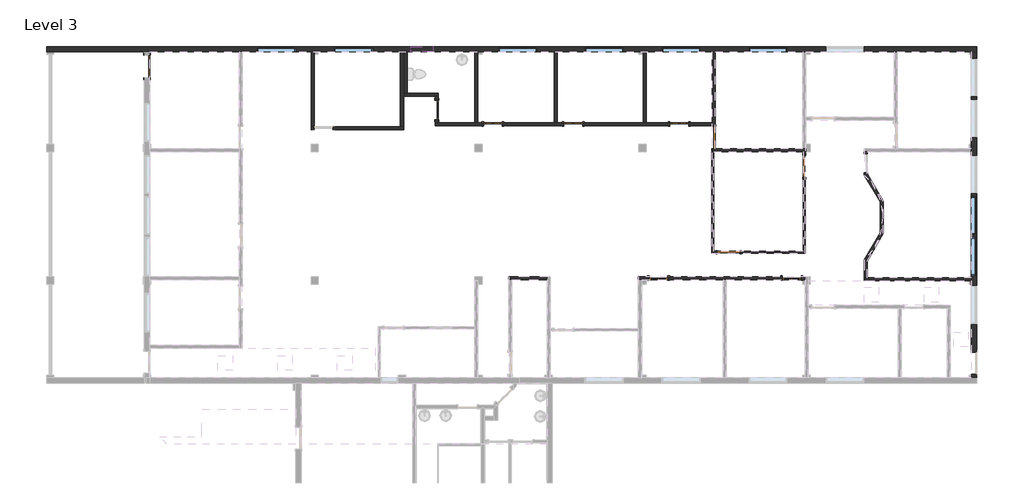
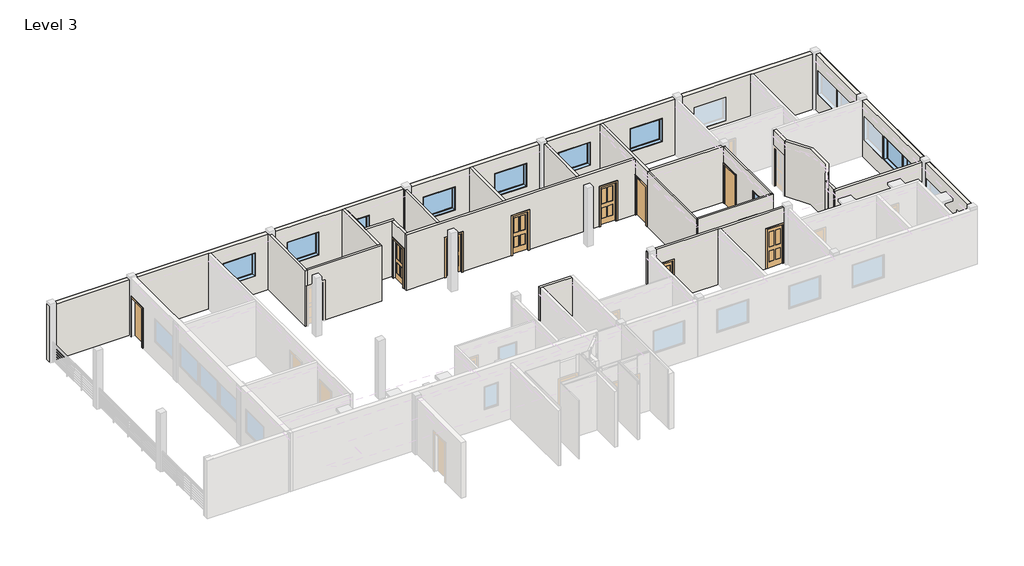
# One storey, part 3 of 4: 23 walls, 11 windows, 10 doors.
"""IFC4 building model written with IfcOpenShell, lengths in millimetres."""

from ifc_helpers import new_model, si_unit, point, frame, frame_2d, origin, origin_with_axes, place, context, project, spatial, polyline, circle_curve, trimmed, segment, composite_curve, outline, extrude, faceted_brep, transform, mapped, element, save
from components import door_43f271b1, door_c0366a91, door_e28fd1ca, door_55521cee, door_bfc1a142, door_dc1c1a0d, door_238e255b, fixed_3_x_3_w3_42a4cb5f, window_74e4fc61, window_a0bf6c86

model = new_model("IFC4")

# Units and contexts
model_context = context("Model", 3, world=origin())
ifc_project = project(units=[si_unit("LENGTHUNIT", "METRE", prefix="MILLI")], contexts=[model_context])

# Site, building, storey
site = spatial("IfcSite", under=ifc_project)
building = spatial("IfcBuilding", under=site)
storey = spatial("IfcBuildingStorey", under=building, Name="Level 3", Elevation=0.0)

# Doors
placement = place(None, origin())
door_shape = door_43f271b1(model_context)
element("IfcDoor", 1, ObjectType="Single-Flush : 36\" x 80\" - D1", at=placement, inside=storey, context=model_context, shape_type="MappedRepresentation", body=[
    mapped(door_shape, transform((-3475.6437367, 6350.3566387, 0.0), x_axis=(0.0, -0.9999999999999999, 0.0), y_axis=(0.9999999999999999, 0.0, 0.0), z_axis=(0.0, 0.0, 1.0))),
])
door_2_shape = door_c0366a91(model_context)
element("IfcDoor", 2, ObjectType="Single-Flush : 36\" x 80\" - D1", at=placement, inside=storey, context=model_context, shape_type="MappedRepresentation", body=[
    mapped(door_2_shape, transform((231.1687633, 5177.1941387, 0.0), x_axis=(0.0, 1.0, 0.0), y_axis=(-1.0, 0.0, 0.0), z_axis=(0.0, 0.0, 1.0))),
])
door_3_shape = door_e28fd1ca(model_context)
element("IfcDoor", 3, ObjectType="Single-Flush : 36\" x 80\" - D1", at=placement, inside=storey, context=model_context, shape_type="MappedRepresentation", body=[
    mapped(door_3_shape, transform((-2866.0437367, 1660.8816387, 0.0), x_axis=(-0.9999999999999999, 0.0, 0.0), y_axis=(0.0, -0.9999999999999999, 0.0), z_axis=(0.0, 0.0, 1.0))),
])
door_4_shape = door_55521cee(model_context)
element("IfcDoor", 4, ObjectType="Single-Flush : 36\" x 80\" - D1", at=placement, inside=storey, context=model_context, shape_type="MappedRepresentation", body=[
    mapped(door_4_shape, transform((-26653.1437367, 9260.2441387, 0.0), x_axis=(0.0, 1.0, 0.0), y_axis=(-1.0, 0.0, 0.0), z_axis=(0.0, 0.0, 1.0))),
])
door_5_shape = door_bfc1a142(model_context)
element("IfcDoor", 5, ObjectType="Single-Glass 3 : 30\" x 80\" - D3", at=placement, inside=storey, context=model_context, shape_type="MappedRepresentation", body=[
    mapped(door_5_shape, transform((-12511.6937367, 6904.3941387, 0.0), x_axis=(-1.0, 0.0, 0.0), y_axis=(0.0, -1.0, 0.0), z_axis=(0.0, 0.0, 1.0))),
])
element("IfcDoor", 6, ObjectType="Single-Glass 3 : 30\" x 80\" - D3", at=placement, inside=storey, context=model_context, shape_type="MappedRepresentation", body=[
    mapped(door_5_shape, transform((-281.5937367, 605.1941387, 0.0), x_axis=(1.0, 0.0, 0.0), y_axis=(0.0, 1.0, 0.0), z_axis=(0.0, 0.0, 1.0))),
])
element("IfcDoor", 7, ObjectType="Single-Glass 3 : 30\" x 80\" - D3", at=placement, inside=storey, context=model_context, shape_type="MappedRepresentation", body=[
    mapped(door_5_shape, transform((-9222.3937367, 6904.3941387, 0.0), x_axis=(-1.0, 0.0, 0.0), y_axis=(0.0, -1.0, 0.0), z_axis=(0.0, 0.0, 1.0))),
])
door_6_shape = door_dc1c1a0d(model_context)
element("IfcDoor", 8, ObjectType="Single-Glass 3 : 30\" x 80\" - D3", at=placement, inside=storey, context=model_context, shape_type="MappedRepresentation", body=[
    mapped(door_6_shape, transform((-5729.8937367, 605.1941387, 0.0), x_axis=(-1.0, 0.0, 0.0), y_axis=(0.0, -1.0, 0.0), z_axis=(0.0, 0.0, 1.0))),
])
element("IfcDoor", 9, ObjectType="Single-Glass 3 : 30\" x 80\" - D3", at=placement, inside=storey, context=model_context, shape_type="MappedRepresentation", body=[
    mapped(door_6_shape, transform((-4884.5499867, 6904.3941387, 0.0), x_axis=(1.0, 0.0, 0.0), y_axis=(0.0, 1.0, 0.0), z_axis=(0.0, 0.0, 1.0))),
])
door_7_shape = door_238e255b(model_context)
element("IfcDoor", 10, ObjectType="Single-Glass 3 : 32\" x 80\" - D2", at=placement, inside=storey, context=model_context, shape_type="MappedRepresentation", body=[
    mapped(door_7_shape, transform((-14804.0437367, 7482.2441387, 0.0), x_axis=(0.0, -1.0, 0.0), y_axis=(1.0, 0.0, 0.0), z_axis=(0.0, 0.0, 1.0))),
])

# Walls
element("IfcWall", 11, ObjectType="Generic - 6\"", at=placement, inside=storey, context=model_context, shape_type="SweptSolid", body=[
    extrude(outline(polyline([(-16164.5312367, 8172.8066387), (-16164.5312367, 9857.1441387), (-16012.1312367, 9857.1441387), (-16012.1312367, 8172.8066387), (-16164.5312367, 8172.8066387)])), origin_with_axes(), (0.0, 0.0, 1.0), 2743.2),
])
element("IfcWall", 12, ObjectType="Generic - 8\" Masonry existing", at=placement, inside=storey, context=model_context, shape_type="Brep", body=[
    faceted_brep([(-30767.9437367, 9857.1441387, 0.0), (-30767.9437367, 9857.1441387, 2895.6), (-30767.9437367, 10063.5191387, 2895.6), (-30767.9437367, 10076.2191387, 2895.6), (-30767.9437367, 10076.2191387, 0.0), (7289.1937633, 9857.1441387, 0.0), (7070.1187633, 9857.1441387, 0.0), (4026.8812633, 9857.1441387, 0.0), (3903.0562633, 9857.1441387, 0.0), (293.0812633, 9857.1441387, 0.0), (169.2562633, 9857.1441387, 0.0), (-3413.7312367, 9857.1441387, 0.0), (-3537.5562367, 9857.1441387, 0.0), (-6231.5437367, 9857.1441387, 0.0), (-6355.3687367, 9857.1441387, 0.0), (-9865.3312367, 9857.1441387, 0.0), (-9989.1562367, 9857.1441387, 0.0), (-13118.1187367, 9857.1441387, 0.0), (-13241.9437367, 9857.1441387, 0.0), (-16012.1312367, 9857.1441387, 0.0), (-16164.5312367, 9857.1441387, 0.0), (-16288.3562367, 9857.1441387, 0.0), (-19823.7187367, 9857.1441387, 0.0), (-19947.5437367, 9857.1441387, 0.0), (-22766.9437367, 9857.1441387, 0.0), (-22890.7687367, 9857.1441387, 0.0), (-26543.6062367, 9857.1441387, 0.0), (-26762.6812367, 9857.1441387, 0.0), (7289.1937633, 10076.2191387, 0.0), (7289.1937633, 9857.1441387, 2895.6), (7276.4937633, 9857.1441387, 2895.6), (7070.1187633, 9857.1441387, 2895.6), (4026.8812633, 9857.1441387, 2895.6), (3903.0562633, 9857.1441387, 2895.6), (293.0812633, 9857.1441387, 2895.6), (169.2562633, 9857.1441387, 2895.6), (-3413.7312367, 9857.1441387, 2895.6), (-3537.5562367, 9857.1441387, 2895.6), (-6231.5437367, 9857.1441387, 2895.6), (-6355.3687367, 9857.1441387, 2895.6), (-9865.3312367, 9857.1441387, 2895.6), (-9989.1562367, 9857.1441387, 2895.6), (-13118.1187367, 9857.1441387, 2895.6), (-13241.9437367, 9857.1441387, 2895.6), (-16164.5312367, 9857.1441387, 2895.6), (-16288.3562367, 9857.1441387, 2895.6), (-19823.7187367, 9857.1441387, 2895.6), (-19947.5437367, 9857.1441387, 2895.6), (-22766.9437367, 9857.1441387, 2895.6), (-22890.7687367, 9857.1441387, 2895.6), (-14945.3312367, 9857.1441387, 2133.6), (-14945.3312367, 9857.1441387, 1219.2), (-15859.7312367, 9857.1441387, 1219.2), (-15859.7312367, 9857.1441387, 2133.6), (-4021.7437367, 9857.1441387, 2133.6), (-4021.7437367, 9857.1441387, 914.4), (-5596.5437367, 9857.1441387, 914.4), (-5596.5437367, 9857.1441387, 2133.6), (-7171.3437367, 9857.1441387, 2133.6), (-7171.3437367, 9857.1441387, 914.4), (-8746.1437367, 9857.1441387, 914.4), (-8746.1437367, 9857.1441387, 2133.6), (2683.8562633, 9857.1441387, 2133.6), (2683.8562633, 9857.1441387, 914.4), (1109.0562633, 9857.1441387, 914.4), (1109.0562633, 9857.1441387, 2133.6), (-465.7437367, 9857.1441387, 2133.6), (-465.7437367, 9857.1441387, 914.4), (-2040.5437367, 9857.1441387, 914.4), (-2040.5437367, 9857.1441387, 2133.6), (-10701.9437367, 9857.1441387, 2133.6), (-10701.9437367, 9857.1441387, 914.4), (-12276.7437367, 9857.1441387, 914.4), (-12276.7437367, 9857.1441387, 2133.6), (-17432.9437367, 9857.1441387, 2133.6), (-17432.9437367, 9857.1441387, 914.4), (-19007.7437367, 9857.1441387, 914.4), (-19007.7437367, 9857.1441387, 2133.6), (-20582.5437367, 9857.1441387, 2133.6), (-20582.5437367, 9857.1441387, 914.4), (-22157.3437367, 9857.1441387, 914.4), (-22157.3437367, 9857.1441387, 2133.6), (7276.4937633, 10076.2191387, 2895.6), (7289.1937633, 10076.2191387, 2895.6), (-14945.3312367, 10076.2191387, 2133.6), (-15859.7312367, 10076.2191387, 2133.6), (-15859.7312367, 10076.2191387, 1219.2), (-14945.3312367, 10076.2191387, 1219.2), (-4021.7437367, 10076.2191387, 2133.6), (-5596.5437367, 10076.2191387, 2133.6), (-5596.5437367, 10076.2191387, 914.4), (-4021.7437367, 10076.2191387, 914.4), (-7171.3437367, 10076.2191387, 2133.6), (-8746.1437367, 10076.2191387, 2133.6), (-8746.1437367, 10076.2191387, 914.4), (-7171.3437367, 10076.2191387, 914.4), (2683.8562633, 10076.2191387, 2133.6), (1109.0562633, 10076.2191387, 2133.6), (1109.0562633, 10076.2191387, 914.4), (2683.8562633, 10076.2191387, 914.4), (-465.7437367, 10076.2191387, 2133.6), (-2040.5437367, 10076.2191387, 2133.6), (-2040.5437367, 10076.2191387, 914.4), (-465.7437367, 10076.2191387, 914.4), (-10701.9437367, 10076.2191387, 2133.6), (-12276.7437367, 10076.2191387, 2133.6), (-12276.7437367, 10076.2191387, 914.4), (-10701.9437367, 10076.2191387, 914.4), (-17432.9437367, 10076.2191387, 2133.6), (-19007.7437367, 10076.2191387, 2133.6), (-19007.7437367, 10076.2191387, 914.4), (-17432.9437367, 10076.2191387, 914.4), (-20582.5437367, 10076.2191387, 2133.6), (-22157.3437367, 10076.2191387, 2133.6), (-22157.3437367, 10076.2191387, 914.4), (-20582.5437367, 10076.2191387, 914.4), (7289.1937633, 10063.5191387, 2895.6), (7276.4937633, 10063.5191387, 2895.6)], [[[0, 1, 2, 3, 4]], [[5, 6, 7, 8, 9, 10, 11, 12, 13, 14, 15, 16, 17, 18, 19, 20, 21, 22, 23, 24, 25, 26, 27, 0, 4, 28]], [[0, 27, 26, 25, 24, 23, 22, 21, 20, 19, 18, 17, 16, 15, 14, 13, 12, 11, 10, 9, 8, 7, 6, 5, 29, 30, 31, 32, 33, 34, 35, 36, 37, 38, 39, 40, 41, 42, 43, 44, 45, 46, 47, 48, 49, 1], [50, 51, 52, 53], [54, 55, 56, 57], [58, 59, 60, 61], [62, 63, 64, 65], [66, 67, 68, 69], [70, 71, 72, 73], [74, 75, 76, 77], [78, 79, 80, 81]], [[4, 3, 82, 83, 28], [84, 85, 86, 87], [88, 89, 90, 91], [92, 93, 94, 95], [96, 97, 98, 99], [100, 101, 102, 103], [104, 105, 106, 107], [108, 109, 110, 111], [112, 113, 114, 115]], [[29, 5, 28, 83, 116]], [[30, 29, 116, 117]], [[82, 3, 2, 117]], [[116, 83, 82, 117]], [[1, 49, 48, 47, 46, 45, 44, 43, 42, 41, 40, 39, 38, 37, 36, 35, 34, 33, 32, 31, 30, 117, 2]], [[51, 50, 84, 87]], [[52, 51, 87, 86]], [[53, 52, 86, 85]], [[50, 53, 85, 84]], [[55, 54, 88, 91]], [[56, 55, 91, 90]], [[57, 56, 90, 89]], [[54, 57, 89, 88]], [[59, 58, 92, 95]], [[60, 59, 95, 94]], [[61, 60, 94, 93]], [[58, 61, 93, 92]], [[63, 62, 96, 99]], [[64, 63, 99, 98]], [[65, 64, 98, 97]], [[62, 65, 97, 96]], [[67, 66, 100, 103]], [[68, 67, 103, 102]], [[69, 68, 102, 101]], [[66, 69, 101, 100]], [[71, 70, 104, 107]], [[72, 71, 107, 106]], [[73, 72, 106, 105]], [[70, 73, 105, 104]], [[75, 74, 108, 111]], [[76, 75, 111, 110]], [[77, 76, 110, 109]], [[74, 77, 109, 108]], [[79, 78, 112, 115]], [[80, 79, 115, 114]], [[81, 80, 114, 113]], [[78, 81, 113, 112]]]),
])
element("IfcWall", 13, ObjectType="Generic - 8\" Masonry existing", at=placement, inside=storey, context=model_context, shape_type="Brep", body=[
    faceted_brep([(7070.1187633, -3477.8558613, 0.0), (7070.1187633, -3338.1558613, 0.0), (7289.1937633, -3338.1558613, 0.0), (7289.1937633, -3477.8558613, 0.0), (7070.1187633, -2423.7558613, 0.0), (7070.1187633, 498.8316387, 0.0), (7070.1187633, 622.6566387, 0.0), (7070.1187633, 5769.3316387, 0.0), (7070.1187633, 5893.1566387, 0.0), (7070.1187633, 9857.1441387, 0.0), (7289.1937633, 9857.1441387, 0.0), (7289.1937633, -2423.7558613, 0.0), (7289.1937633, -3338.1558613, 2032.0), (7289.1937633, -2423.7558613, 2032.0), (7289.1937633, 9857.1441387, 2895.6), (7289.1937633, -3477.8558613, 2895.6), (7289.1937633, -1280.7558613, 2133.6), (7289.1937633, 294.0441387, 2133.6), (7289.1937633, 294.0441387, 914.4), (7289.1937633, -1280.7558613, 914.4), (7289.1937633, 700.4441387, 2133.6), (7289.1937633, 2275.2441387, 2133.6), (7289.1937633, 2275.2441387, 914.4), (7289.1937633, 700.4441387, 914.4), (7289.1937633, 2376.8441387, 2133.6), (7289.1937633, 3951.6441387, 2133.6), (7289.1937633, 3951.6441387, 914.4), (7289.1937633, 2376.8441387, 914.4), (7289.1937633, 4053.2441387, 2133.6), (7289.1937633, 5628.0441387, 2133.6), (7289.1937633, 5628.0441387, 914.4), (7289.1937633, 4053.2441387, 914.4), (7289.1937633, 6339.2441387, 2133.6), (7289.1937633, 7914.0441387, 2133.6), (7289.1937633, 7914.0441387, 914.4), (7289.1937633, 6339.2441387, 914.4), (7289.1937633, 8015.6441387, 2133.6), (7289.1937633, 9590.4441387, 2133.6), (7289.1937633, 9590.4441387, 914.4), (7289.1937633, 8015.6441387, 914.4), (7070.1187633, -3338.1558613, 2032.0), (7070.1187633, -3477.8558613, 2895.6), (7070.1187633, 498.8316387, 2895.6), (7070.1187633, 622.6566387, 2895.6), (7070.1187633, 5769.3316387, 2895.6), (7070.1187633, 5893.1566387, 2895.6), (7070.1187633, 9857.1441387, 2895.6), (7070.1187633, -2423.7558613, 2032.0), (7070.1187633, -1280.7558613, 2133.6), (7070.1187633, -1280.7558613, 914.4), (7070.1187633, 294.0441387, 914.4), (7070.1187633, 294.0441387, 2133.6), (7070.1187633, 700.4441387, 2133.6), (7070.1187633, 700.4441387, 914.4), (7070.1187633, 2275.2441387, 914.4), (7070.1187633, 2275.2441387, 2133.6), (7070.1187633, 2376.8441387, 2133.6), (7070.1187633, 2376.8441387, 914.4), (7070.1187633, 3951.6441387, 914.4), (7070.1187633, 3951.6441387, 2133.6), (7070.1187633, 4053.2441387, 2133.6), (7070.1187633, 4053.2441387, 914.4), (7070.1187633, 5628.0441387, 914.4), (7070.1187633, 5628.0441387, 2133.6), (7070.1187633, 6339.2441387, 2133.6), (7070.1187633, 6339.2441387, 914.4), (7070.1187633, 7914.0441387, 914.4), (7070.1187633, 7914.0441387, 2133.6), (7070.1187633, 8015.6441387, 2133.6), (7070.1187633, 8015.6441387, 914.4), (7070.1187633, 9590.4441387, 914.4), (7070.1187633, 9590.4441387, 2133.6), (7276.4937633, 9857.1441387, 2895.6), (7276.4937633, -3477.8558613, 2895.6)], [[[0, 1, 2, 3]], [[4, 5, 6, 7, 8, 9, 10, 11]], [[3, 2, 12, 13, 11, 10, 14, 15], [16, 17, 18, 19], [20, 21, 22, 23], [24, 25, 26, 27], [28, 29, 30, 31], [32, 33, 34, 35], [36, 37, 38, 39]], [[40, 1, 0, 41, 42, 43, 44, 45, 46, 9, 8, 7, 6, 5, 4, 47], [48, 49, 50, 51], [52, 53, 54, 55], [56, 57, 58, 59], [60, 61, 62, 63], [64, 65, 66, 67], [68, 69, 70, 71]], [[14, 10, 9, 46, 72]], [[3, 15, 73, 41, 0]], [[15, 14, 72, 73]], [[72, 46, 45, 44, 43, 42, 41, 73]], [[12, 2, 1, 40]], [[13, 12, 40, 47]], [[11, 13, 47, 4]], [[49, 48, 16, 19]], [[50, 49, 19, 18]], [[51, 50, 18, 17]], [[48, 51, 17, 16]], [[53, 52, 20, 23]], [[54, 53, 23, 22]], [[55, 54, 22, 21]], [[52, 55, 21, 20]], [[57, 56, 24, 27]], [[58, 57, 27, 26]], [[59, 58, 26, 25]], [[56, 59, 25, 24]], [[61, 60, 28, 31]], [[62, 61, 31, 30]], [[63, 62, 30, 29]], [[60, 63, 29, 28]], [[65, 64, 32, 35]], [[66, 65, 35, 34]], [[67, 66, 34, 33]], [[64, 67, 33, 32]], [[69, 68, 36, 39]], [[70, 69, 39, 38]], [[71, 70, 38, 37]], [[68, 71, 37, 36]]]),
])
element("IfcWall", 14, ObjectType="Interior - 3 1/8\" Partition (1-hr)", at=placement, inside=storey, context=model_context, shape_type="Brep", body=[
    faceted_brep([(-3545.4937367, 5769.3316387, 0.0), (-3545.4937367, 1621.1941387, 0.0), (-3545.4937367, 1621.1941387, 2895.6), (-3545.4937367, 5769.3316387, 2895.6), (-3466.1187367, 5769.3316387, 0.0), (-3466.1187367, 5769.3316387, 2895.6), (-3466.1187367, 1700.5691387, 2895.6), (-3466.1187367, 1621.1941387, 2895.6), (-3466.1187367, 1621.1941387, 0.0), (-3466.1187367, 1700.5691387, 0.0), (-3537.5562367, 5769.3316387, 0.0), (-3537.5562367, 5769.3316387, 2895.6)], [[[0, 1, 2, 3]], [[4, 5, 6, 7, 8, 9]], [[1, 0, 10, 4, 9, 8]], [[3, 2, 7, 6, 5, 11]], [[2, 1, 8, 7]], [[0, 3, 11, 5, 4, 10]]]),
])
element("IfcWall", 15, ObjectType="Interior - 3 1/8\" Partition (1-hr)", at=placement, inside=storey, context=model_context, shape_type="Brep", body=[
    faceted_brep([(-3466.1187367, 1621.1941387, 0.0), (-3323.2437367, 1621.1941387, 0.0), (-3323.2437367, 1621.1941387, 2032.0), (-2408.8437367, 1621.1941387, 2032.0), (-2408.8437367, 1621.1941387, 0.0), (270.8562633, 1621.1941387, 0.0), (270.8562633, 1621.1941387, 2895.6), (-3466.1187367, 1621.1941387, 2895.6), (-1445.2312367, 1621.1941387, 2133.6), (-530.8312367, 1621.1941387, 2133.6), (-530.8312367, 1621.1941387, 914.4), (-1445.2312367, 1621.1941387, 914.4), (-3323.2437367, 1700.5691387, 2032.0), (-3323.2437367, 1700.5691387, 0.0), (-3466.1187367, 1700.5691387, 0.0), (-3466.1187367, 1700.5691387, 2895.6), (191.4812633, 1700.5691387, 2895.6), (270.8562633, 1700.5691387, 2895.6), (270.8562633, 1700.5691387, 0.0), (191.4812633, 1700.5691387, 0.0), (-2408.8437367, 1700.5691387, 0.0), (-2408.8437367, 1700.5691387, 2032.0), (-1445.2312367, 1700.5691387, 2133.6), (-1445.2312367, 1700.5691387, 914.4), (-530.8312367, 1700.5691387, 914.4), (-530.8312367, 1700.5691387, 2133.6)], [[[0, 1, 2, 3, 4, 5, 6, 7], [8, 9, 10, 11]], [[12, 13, 14, 15, 16, 17, 18, 19, 20, 21], [22, 23, 24, 25]], [[14, 13, 1, 0]], [[20, 19, 18, 5, 4]], [[7, 6, 17, 16, 15]], [[0, 7, 15, 14]], [[6, 5, 18, 17]], [[2, 1, 13, 12]], [[3, 2, 12, 21]], [[4, 3, 21, 20]], [[23, 22, 8, 11]], [[24, 23, 11, 10]], [[25, 24, 10, 9]], [[22, 25, 9, 8]]]),
])
element("IfcWall", 16, ObjectType="Interior - 3 1/8\" Partition (1-hr)", at=placement, inside=storey, context=model_context, shape_type="SweptSolid", body=[
    extrude(outline(polyline([(5769.3316387, 0.0), (5634.3941387, 0.0), (5634.3941387, 2032.0), (4719.9941387, 2032.0), (4719.9941387, 0.0), (1700.5691387, 0.0), (1700.5691387, 2895.6), (5769.3316387, 2895.6), (5769.3316387, 0.0)]), holes=[polyline([(2310.1691387, 2133.6), (2310.1691387, 914.4), (3224.5691387, 914.4), (3224.5691387, 2133.6), (2310.1691387, 2133.6)])]), frame((191.4812633, 0.0, 0.0), z_axis=(1.0, 0.0, 0.0), x_axis=(0.0, 1.0, 0.0)), (0.0, 0.0, 1.0), 79.375),
])
element("IfcWall", 17, ObjectType="Interior - 5 1/2\" Partition (1-hr)", at=placement, inside=storey, context=model_context, shape_type="Brep", body=[
    faceted_brep([(7070.1187633, 622.6566387, 0.0), (2807.6812633, 622.6566387, 0.0), (2683.8562633, 622.6566387, 0.0), (2683.8562633, 622.6566387, 2895.6), (2807.6812633, 622.6566387, 2895.6), (7070.1187633, 622.6566387, 2895.6), (7070.1187633, 498.8316387, 0.0), (7070.1187633, 498.8316387, 2895.6), (2683.8562633, 498.8316387, 2895.6), (2683.8562633, 498.8316387, 0.0)], [[[0, 1, 2, 3, 4, 5]], [[6, 7, 8, 9]], [[2, 1, 0, 6, 9]], [[5, 4, 3, 8, 7]], [[3, 2, 9, 8]], [[0, 5, 7, 6]]]),
])
element("IfcWall", 18, ObjectType="Interior - 5 1/2\" Partition (1-hr)", at=placement, inside=storey, context=model_context, shape_type="Brep", body=[
    faceted_brep([(293.0812633, 5893.1566387, 0.0), (169.2562633, 5893.1566387, 0.0), (-3413.7312367, 5893.1566387, 0.0), (-3413.7312367, 5893.1566387, 2895.6), (169.2562633, 5893.1566387, 2895.6), (293.0812633, 5893.1566387, 2895.6), (293.0812633, 5769.3316387, 0.0), (293.0812633, 5769.3316387, 2895.6), (270.8562633, 5769.3316387, 2895.6), (191.4812633, 5769.3316387, 2895.6), (-3413.7312367, 5769.3316387, 2895.6), (-3413.7312367, 5769.3316387, 0.0), (191.4812633, 5769.3316387, 0.0), (270.8562633, 5769.3316387, 0.0)], [[[0, 1, 2, 3, 4, 5]], [[6, 7, 8, 9, 10, 11, 12, 13]], [[2, 1, 0, 6, 13, 12, 11]], [[5, 4, 3, 10, 9, 8, 7]], [[0, 5, 7, 6]], [[3, 2, 11, 10]]]),
])
element("IfcWall", 19, ObjectType="Interior - 5 1/2\" Partition (1-hr)", at=placement, inside=storey, context=model_context, shape_type="Brep", body=[
    faceted_brep([(-3537.5562367, 5769.3316387, 0.0), (-3537.5562367, 5893.1566387, 0.0), (-3413.7312367, 5893.1566387, 0.0), (-3413.7312367, 5769.3316387, 0.0), (-3466.1187367, 5769.3316387, 0.0), (-3537.5562367, 6807.5566387, 0.0), (-3537.5562367, 6842.4816387, 0.0), (-3537.5562367, 6966.3066387, 0.0), (-3537.5562367, 9857.1441387, 0.0), (-3413.7312367, 9857.1441387, 0.0), (-3413.7312367, 6807.5566387, 0.0), (-3413.7312367, 5769.3316387, 2895.6), (-3413.7312367, 5893.1566387, 2895.6), (-3413.7312367, 9857.1441387, 2895.6), (-3537.5562367, 9857.1441387, 2895.6), (-3537.5562367, 6966.3066387, 2895.6), (-3537.5562367, 6842.4816387, 2895.6), (-3537.5562367, 5769.3316387, 2895.6), (-3466.1187367, 5769.3316387, 2895.6), (-3413.7312367, 5893.1566387, 2032.0), (-3413.7312367, 6807.5566387, 2032.0), (-3537.5562367, 5893.1566387, 2032.0), (-3537.5562367, 6807.5566387, 2032.0)], [[[0, 1, 2, 3, 4]], [[5, 6, 7, 8, 9, 10]], [[11, 12, 13, 14, 15, 16, 17, 18]], [[3, 2, 19, 20, 10, 9, 13, 12, 11]], [[21, 1, 0, 17, 16, 15, 14, 8, 7, 6, 5, 22]], [[13, 9, 8, 14]], [[3, 11, 18, 17, 0, 4]], [[19, 2, 1, 21]], [[20, 19, 21, 22]], [[10, 20, 22, 5]]]),
])
element("IfcWall", 20, ObjectType="Interior - 5 1/2\" Partition (1-hr)", at=placement, inside=storey, context=model_context, shape_type="SweptSolid", body=[
    extrude(outline(composite_curve([segment(polyline([(2807.6812633, 1302.9026762), (2683.8562633, 1355.6815427)]), True, "CONTINUOUS"), segment(trimmed(circle_curve(frame_2d((1057.0149454, 3088.0441387)), 2376.4875), [point((2683.8562633, 1355.6815427))], [point((2683.8562633, 4820.4067347))], True, "CARTESIAN"), True, "CONTINUOUS"), segment(polyline([(2683.8562633, 4820.4067347), (2807.6812633, 4873.1856011)]), True, "CONTINUOUS"), segment(trimmed(circle_curve(frame_2d((1057.0149454, 3088.0441387)), 2500.3125), [point((2807.6812633, 4873.1856011))], [point((2807.6812633, 1302.9026762))], False, "CARTESIAN"), True, "CONTINUOUS")], self_intersect=False)), origin_with_axes(), (0.0, 0.0, 1.0), 2895.6),
])
element("IfcWall", 21, ObjectType="Interior - 5 1/2\" Partition (1-hr)", at=placement, inside=storey, context=model_context, shape_type="SweptSolid", body=[
    extrude(outline(polyline([(2683.8562633, 622.6566387), (2683.8562633, 1355.6815427), (2807.6812633, 1302.9026762), (2807.6812633, 622.6566387), (2683.8562633, 622.6566387)])), origin_with_axes(), (0.0, 0.0, 1.0), 2895.6),
])
element("IfcWall", 22, ObjectType="Interior - 5 1/2\" Partition (1-hr)", at=placement, inside=storey, context=model_context, shape_type="Brep", body=[
    faceted_brep([(2807.6812633, 5769.3316387, 0.0), (2807.6812633, 5685.0701222, 0.0), (2683.8562633, 5685.0701222, 0.0), (2683.8562633, 5769.3316387, 0.0), (2807.6812633, 4923.0701222, 0.0), (2807.6812633, 4873.1856011, 0.0), (2683.8562633, 4820.4067347, 0.0), (2683.8562633, 4923.0701222, 0.0), (2683.8562633, 5769.3316387, 2895.6), (2683.8562633, 4820.4067347, 2895.6), (2807.6812633, 4873.1856011, 2895.6), (2807.6812633, 5769.3316387, 2895.6), (2683.8562633, 5685.0701222, 2032.0), (2683.8562633, 4923.0701222, 2032.0), (2807.6812633, 5685.0701222, 2032.0), (2807.6812633, 4923.0701222, 2032.0)], [[[0, 1, 2, 3]], [[4, 5, 6, 7]], [[8, 9, 10, 11]], [[3, 2, 12, 13, 7, 6, 9, 8]], [[14, 1, 0, 11, 10, 5, 4, 15]], [[9, 6, 5, 10]], [[3, 8, 11, 0]], [[12, 2, 1, 14]], [[13, 12, 14, 15]], [[7, 13, 15, 4]]]),
])
element("IfcWall", 23, ObjectType="Interior - 5 1/2\" Partition (1-hr)", at=placement, inside=storey, context=model_context, shape_type="Brep", body=[
    faceted_brep([(259.7437633, 543.2816387, 0.0), (99.2822468, 543.2816387, 0.0), (99.2822468, 667.1066387, 0.0), (259.7437633, 667.1066387, 0.0), (-6552.2187367, 543.2816387, 0.0), (-6552.2187367, 667.1066387, 0.0), (-6110.7697202, 667.1066387, 0.0), (-6110.7697202, 543.2816387, 0.0), (-6428.3937367, 543.2816387, 0.0), (-662.7177532, 543.2816387, 0.0), (-2956.5312367, 543.2816387, 0.0), (-3080.3562367, 543.2816387, 0.0), (-5348.7697202, 543.2816387, 0.0), (-5348.7697202, 667.1066387, 0.0), (-662.7177532, 667.1066387, 0.0), (259.7437633, 667.1066387, 2895.6), (-6552.2187367, 667.1066387, 2895.6), (-6552.2187367, 543.2816387, 2895.6), (-6428.3937367, 543.2816387, 2895.6), (-3080.3562367, 543.2816387, 2895.6), (-2956.5312367, 543.2816387, 2895.6), (259.7437633, 543.2816387, 2895.6), (99.2822468, 667.1066387, 2032.0), (-662.7177532, 667.1066387, 2032.0), (-5348.7697202, 667.1066387, 2032.0), (-6110.7697202, 667.1066387, 2032.0), (99.2822468, 543.2816387, 2032.0), (-6110.7697202, 543.2816387, 2032.0), (-5348.7697202, 543.2816387, 2032.0), (-662.7177532, 543.2816387, 2032.0)], [[[0, 1, 2, 3]], [[4, 5, 6, 7, 8]], [[9, 10, 11, 12, 13, 14]], [[15, 16, 17, 18, 19, 20, 21]], [[3, 2, 22, 23, 14, 13, 24, 25, 6, 5, 16, 15]], [[26, 1, 0, 21, 20, 19, 18, 17, 4, 8, 7, 27, 28, 12, 11, 10, 9, 29]], [[3, 15, 21, 0]], [[16, 5, 4, 17]], [[25, 27, 7, 6]], [[27, 25, 24, 28]], [[28, 24, 13, 12]], [[22, 2, 1, 26]], [[23, 22, 26, 29]], [[14, 23, 29, 9]]]),
])
element("IfcWall", 24, ObjectType="Interior - 5 1/2\" Partition (1-hr)", at=placement, inside=storey, context=model_context, shape_type="Brep", body=[
    faceted_brep([(-16164.5312367, 6791.6816387, 0.0), (-16164.5312367, 6667.8566387, 0.0), (-19061.5947202, 6667.8566387, 0.0), (-19061.5947202, 6791.6816387, 0.0), (-16288.3562367, 6791.6816387, 0.0), (-19823.7187367, 6667.8566387, 2895.6), (-16164.5312367, 6667.8566387, 2895.6), (-16164.5312367, 6791.6816387, 2895.6), (-16288.3562367, 6791.6816387, 2895.6), (-19823.7187367, 6791.6816387, 2895.6), (-19823.7187367, 6667.8566387, 2032.0), (-19061.5947202, 6667.8566387, 2032.0), (-19061.5947202, 6791.6816387, 2032.0), (-19823.7187367, 6791.6816387, 2032.0)], [[[0, 1, 2, 3, 4]], [[5, 6, 7, 8, 9]], [[6, 5, 10, 11, 2, 1]], [[9, 8, 7, 0, 4, 3, 12, 13]], [[5, 9, 13, 10]], [[6, 1, 0, 7]], [[12, 11, 10, 13]], [[11, 12, 3, 2]]]),
])
element("IfcWall", 25, ObjectType="Interior - 5 1/2\" Partition (1-hr)", at=placement, inside=storey, context=model_context, shape_type="Brep", body=[
    faceted_brep([(-19947.5437367, 6667.8566387, 0.0), (-19947.5437367, 9857.1441387, 0.0), (-19823.7187367, 9857.1441387, 0.0), (-19823.7187367, 6667.8566387, 0.0), (-19947.5437367, 9857.1441387, 2895.6), (-19947.5437367, 6667.8566387, 2895.6), (-19823.7187367, 6667.8566387, 2895.6), (-19823.7187367, 6791.6816387, 2895.6), (-19823.7187367, 9857.1441387, 2895.6), (-19823.7187367, 6667.8566387, 2032.0)], [[[0, 1, 2, 3]], [[4, 5, 6, 7, 8]], [[1, 0, 5, 4]], [[2, 8, 7, 6, 9, 3]], [[1, 4, 8, 2]], [[5, 0, 3, 9, 6]]]),
])
element("IfcWall", 26, ObjectType="Interior - 5 1/2\" Partition (1-hr)", at=placement, inside=storey, context=model_context, shape_type="Brep", body=[
    faceted_brep([(-16164.5312367, 6791.6816387, 0.0), (-16164.5312367, 8048.9816387, 0.0), (-16164.5312367, 8172.8066387, 0.0), (-16164.5312367, 9857.1441387, 0.0), (-16164.5312367, 9857.1441387, 2895.6), (-16164.5312367, 8172.8066387, 2895.6), (-16164.5312367, 8048.9816387, 2895.6), (-16164.5312367, 6791.6816387, 2895.6), (-16288.3562367, 6791.6816387, 0.0), (-16288.3562367, 6791.6816387, 2895.6), (-16288.3562367, 9857.1441387, 2895.6), (-16288.3562367, 9857.1441387, 0.0)], [[[0, 1, 2, 3, 4, 5, 6, 7]], [[8, 9, 10, 11]], [[3, 2, 1, 0, 8, 11]], [[7, 6, 5, 4, 10, 9]], [[4, 3, 11, 10]], [[0, 7, 9, 8]]]),
])
element("IfcWall", 27, ObjectType="Interior - 5 1/2\" Partition (1-hr)", at=placement, inside=storey, context=model_context, shape_type="SweptSolid", body=[
    extrude(outline(polyline([(-13241.9437367, 6966.3066387), (-13241.9437367, 9857.1441387), (-13118.1187367, 9857.1441387), (-13118.1187367, 6966.3066387), (-13241.9437367, 6966.3066387)])), origin_with_axes(), (0.0, 0.0, 1.0), 2895.6),
])
element("IfcWall", 28, ObjectType="Interior - 5 1/2\" Partition (1-hr)", at=placement, inside=storey, context=model_context, shape_type="SweptSolid", body=[
    extrude(outline(polyline([(-9865.3312367, 9857.1441387), (-9865.3312367, 6966.3066387), (-9989.1562367, 6966.3066387), (-9989.1562367, 9857.1441387), (-9865.3312367, 9857.1441387)])), origin_with_axes(), (0.0, 0.0, 1.0), 2895.6),
])
element("IfcWall", 29, ObjectType="Interior - 5 1/2\" Partition (1-hr)", at=placement, inside=storey, context=model_context, shape_type="SweptSolid", body=[
    extrude(outline(polyline([(-6355.3687367, 6966.3066387), (-6355.3687367, 9857.1441387), (-6231.5437367, 9857.1441387), (-6231.5437367, 6966.3066387), (-6355.3687367, 6966.3066387)])), origin_with_axes(), (0.0, 0.0, 1.0), 2895.6),
])
element("IfcWall", 30, ObjectType="Interior - 5 1/2\" Partition (1-hr)", at=placement, inside=storey, context=model_context, shape_type="Brep", body=[
    faceted_brep([(-16164.5312367, 8048.9816387, 0.0), (-14865.9562367, 8048.9816387, 0.0), (-14742.1312367, 8048.9816387, 0.0), (-14742.1312367, 8048.9816387, 2895.6), (-14865.9562367, 8048.9816387, 2895.6), (-16164.5312367, 8048.9816387, 2895.6), (-16164.5312367, 8172.8066387, 0.0), (-16164.5312367, 8172.8066387, 2743.2), (-16164.5312367, 8172.8066387, 2895.6), (-14742.1312367, 8172.8066387, 2895.6), (-14742.1312367, 8172.8066387, 0.0), (-16012.1312367, 8172.8066387, 0.0)], [[[0, 1, 2, 3, 4, 5]], [[6, 7, 8, 9, 10, 11]], [[2, 1, 0, 6, 11, 10]], [[5, 4, 3, 9, 8]], [[3, 2, 10, 9]], [[0, 5, 8, 7, 6]]]),
])
element("IfcWall", 31, ObjectType="Interior - 5 1/2\" Partition (1-hr)", at=placement, inside=storey, context=model_context, shape_type="SweptSolid", body=[
    extrude(outline(polyline([(6966.3066387, 2895.6), (8048.9816387, 2895.6), (8048.9816387, 0.0), (7888.7681552, 0.0), (7888.7681552, 2032.0), (7075.9681552, 2032.0), (7075.9681552, 0.0), (6966.3066387, 0.0), (6966.3066387, 2895.6)])), frame((-14865.9562367, 0.0, 0.0), z_axis=(1.0, 0.0, 0.0), x_axis=(0.0, 1.0, 0.0)), (0.0, 0.0, 1.0), 123.825),
])
element("IfcWall", 32, ObjectType="Interior - 5 1/2\" Partition (1-hr)", at=placement, inside=storey, context=model_context, shape_type="Brep", body=[
    faceted_brep([(-14865.9562367, 6966.3066387, 0.0), (-14742.1312367, 6966.3066387, 0.0), (-13241.9437367, 6966.3066387, 0.0), (-13118.1187367, 6966.3066387, 0.0), (-12892.5697202, 6966.3066387, 0.0), (-12892.5697202, 6842.4816387, 0.0), (-14865.9562367, 6842.4816387, 0.0), (-12130.5697202, 6966.3066387, 0.0), (-9989.1562367, 6966.3066387, 0.0), (-9865.3312367, 6966.3066387, 0.0), (-9603.2697202, 6966.3066387, 0.0), (-9603.2697202, 6842.4816387, 0.0), (-12130.5697202, 6842.4816387, 0.0), (-3537.5562367, 6842.4816387, 0.0), (-4503.6740032, 6842.4816387, 0.0), (-4503.6740032, 6966.3066387, 0.0), (-3537.5562367, 6966.3066387, 0.0), (-5265.6740032, 6842.4816387, 0.0), (-8841.2697202, 6842.4816387, 0.0), (-8841.2697202, 6966.3066387, 0.0), (-6355.3687367, 6966.3066387, 0.0), (-6231.5437367, 6966.3066387, 0.0), (-5265.6740032, 6966.3066387, 0.0), (-14865.9562367, 6842.4816387, 2895.6), (-3537.5562367, 6842.4816387, 2895.6), (-3537.5562367, 6966.3066387, 2895.6), (-6231.5437367, 6966.3066387, 2895.6), (-6355.3687367, 6966.3066387, 2895.6), (-9865.3312367, 6966.3066387, 2895.6), (-9989.1562367, 6966.3066387, 2895.6), (-13118.1187367, 6966.3066387, 2895.6), (-13241.9437367, 6966.3066387, 2895.6), (-14742.1312367, 6966.3066387, 2895.6), (-14865.9562367, 6966.3066387, 2895.6), (-4503.6740032, 6842.4816387, 2032.0), (-12892.5697202, 6842.4816387, 2032.0), (-12130.5697202, 6842.4816387, 2032.0), (-9603.2697202, 6842.4816387, 2032.0), (-8841.2697202, 6842.4816387, 2032.0), (-5265.6740032, 6842.4816387, 2032.0), (-4503.6740032, 6966.3066387, 2032.0), (-5265.6740032, 6966.3066387, 2032.0), (-8841.2697202, 6966.3066387, 2032.0), (-9603.2697202, 6966.3066387, 2032.0), (-12130.5697202, 6966.3066387, 2032.0), (-12892.5697202, 6966.3066387, 2032.0)], [[[0, 1, 2, 3, 4, 5, 6]], [[7, 8, 9, 10, 11, 12]], [[13, 14, 15, 16]], [[17, 18, 19, 20, 21, 22]], [[23, 24, 25, 26, 27, 28, 29, 30, 31, 32, 33]], [[34, 14, 13, 24, 23, 6, 5, 35, 36, 12, 11, 37, 38, 18, 17, 39]], [[16, 15, 40, 41, 22, 21, 20, 19, 42, 43, 10, 9, 8, 7, 44, 45, 4, 3, 2, 1, 0, 33, 32, 31, 30, 29, 28, 27, 26, 25]], [[6, 23, 33, 0]], [[24, 13, 16, 25]], [[35, 5, 4, 45]], [[36, 35, 45, 44]], [[12, 36, 44, 7]], [[37, 11, 10, 43]], [[38, 37, 43, 42]], [[18, 38, 42, 19]], [[40, 15, 14, 34]], [[41, 40, 34, 39]], [[22, 41, 39, 17]]]),
])
element("IfcWall", 33, ObjectType="Interior - 5 1/2\" Partition (1-hr)", at=placement, inside=storey, context=model_context, shape_type="Brep", body=[
    faceted_brep([(-10281.2562367, 667.1066387, 0.0), (-11868.7562367, 667.1066387, 0.0), (-11868.7562367, 667.1066387, 2895.6), (-10281.2562367, 667.1066387, 2895.6), (-10281.2562367, 543.2816387, 0.0), (-10281.2562367, 543.2816387, 2895.6), (-11744.9312367, 543.2816387, 2895.6), (-11868.7562367, 543.2816387, 2895.6), (-11868.7562367, 543.2816387, 0.0), (-11744.9312367, 543.2816387, 0.0)], [[[0, 1, 2, 3]], [[4, 5, 6, 7, 8, 9]], [[1, 0, 4, 9, 8]], [[3, 2, 7, 6, 5]], [[2, 1, 8, 7]], [[0, 3, 5, 4]]]),
])

# Windows
fixed_3_x_3_w3_shape = fixed_3_x_3_w3_42a4cb5f(model_context)
element("IfcWindow", 34, ObjectType="Fixed : 3'x 3' - W3", at=placement, inside=storey, context=model_context, shape_type="MappedRepresentation", body=[
    mapped(fixed_3_x_3_w3_shape, transform((-15364.4312367, 9966.6816387, -304.8), x_axis=(1.0, 0.0, 0.0), y_axis=(0.0, 1.0, 0.0), z_axis=(0.0, 0.0, 1.0))),
])
window_shape = window_74e4fc61(model_context)
element("IfcWindow", 35, ObjectType="Fixed : 36\" x 48\" - W2", at=placement, inside=storey, context=model_context, shape_type="MappedRepresentation", body=[
    mapped(window_shape, transform((-1026.1312367, 1660.8816387, 0.0), x_axis=(-0.9999999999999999, 0.0, 0.0), y_axis=(0.0, -0.9999999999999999, 0.0), z_axis=(0.0, 0.0, 1.0))),
])
element("IfcWindow", 36, ObjectType="Fixed : 36\" x 48\" - W2", at=placement, inside=storey, context=model_context, shape_type="MappedRepresentation", body=[
    mapped(window_shape, transform((231.1687633, 2729.2691387, 0.0), x_axis=(0.0, -1.0, 0.0), y_axis=(1.0, 0.0, 0.0), z_axis=(0.0, 0.0, 1.0))),
])
window_2_shape = window_a0bf6c86(model_context)
element("IfcWindow", 37, ObjectType="Fixed : 60\" x 48\" - W1", at=placement, inside=storey, context=model_context, shape_type="MappedRepresentation", body=[
    mapped(window_2_shape, transform((-21331.8437367, 9966.6816387, 0.0), x_axis=(1.0, 0.0, 0.0), y_axis=(0.0, 1.0, 0.0), z_axis=(0.0, 0.0, 1.0))),
])
element("IfcWindow", 38, ObjectType="Fixed : 60\" x 48\" - W1", at=placement, inside=storey, context=model_context, shape_type="MappedRepresentation", body=[
    mapped(window_2_shape, transform((-18182.2437367, 9966.6816387, 0.0), x_axis=(1.0, 0.0, 0.0), y_axis=(0.0, 1.0, 0.0), z_axis=(0.0, 0.0, 1.0))),
])
element("IfcWindow", 39, ObjectType="Fixed : 60\" x 48\" - W1", at=placement, inside=storey, context=model_context, shape_type="MappedRepresentation", body=[
    mapped(window_2_shape, transform((-11451.2437367, 9966.6816387, 0.0), x_axis=(1.0, 0.0, 0.0), y_axis=(0.0, 1.0, 0.0), z_axis=(0.0, 0.0, 1.0))),
])
element("IfcWindow", 40, ObjectType="Fixed : 60\" x 48\" - W1", at=placement, inside=storey, context=model_context, shape_type="MappedRepresentation", body=[
    mapped(window_2_shape, transform((-1215.0437367, 9966.6816387, 0.0), x_axis=(1.0, 0.0, 0.0), y_axis=(0.0, 1.0, 0.0), z_axis=(0.0, 0.0, 1.0))),
])
element("IfcWindow", 41, ObjectType="Fixed : 60\" x 48\" - W1", at=placement, inside=storey, context=model_context, shape_type="MappedRepresentation", body=[
    mapped(window_2_shape, transform((-7920.6437367, 9966.6816387, 0.0), x_axis=(1.0, 0.0, 0.0), y_axis=(0.0, 1.0, 0.0), z_axis=(0.0, 0.0, 1.0))),
])
element("IfcWindow", 42, ObjectType="Fixed : 60\" x 48\" - W1", at=placement, inside=storey, context=model_context, shape_type="MappedRepresentation", body=[
    mapped(window_2_shape, transform((7179.6562633, 3126.1441387, 0.0), x_axis=(0.0, -0.9999999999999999, 0.0), y_axis=(0.9999999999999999, 0.0, 0.0), z_axis=(0.0, 0.0, 1.0))),
])
element("IfcWindow", 43, ObjectType="Fixed : 60\" x 48\" - W1", at=placement, inside=storey, context=model_context, shape_type="MappedRepresentation", body=[
    mapped(window_2_shape, transform((7179.6562633, 1449.7441387, 0.0), x_axis=(0.0, -0.9999999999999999, 0.0), y_axis=(0.9999999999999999, 0.0, 0.0), z_axis=(0.0, 0.0, 1.0))),
])
element("IfcWindow", 44, ObjectType="Fixed : 60\" x 48\" - W1", at=placement, inside=storey, context=model_context, shape_type="MappedRepresentation", body=[
    mapped(window_2_shape, transform((-4771.0437367, 9966.6816387, 0.0), x_axis=(1.0, 0.0, 0.0), y_axis=(0.0, 1.0, 0.0), z_axis=(0.0, 0.0, 1.0))),
])

save(model, "model.ifc")
